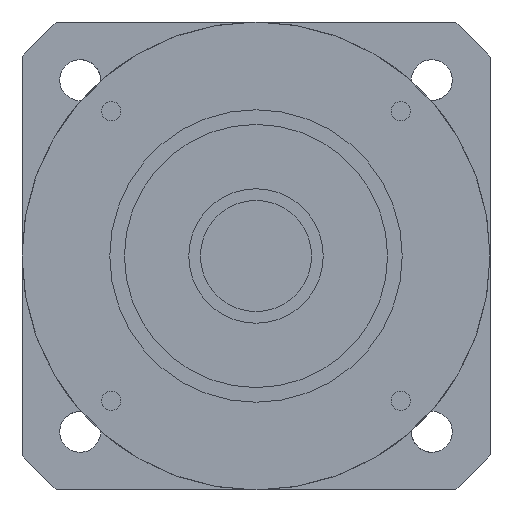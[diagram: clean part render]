
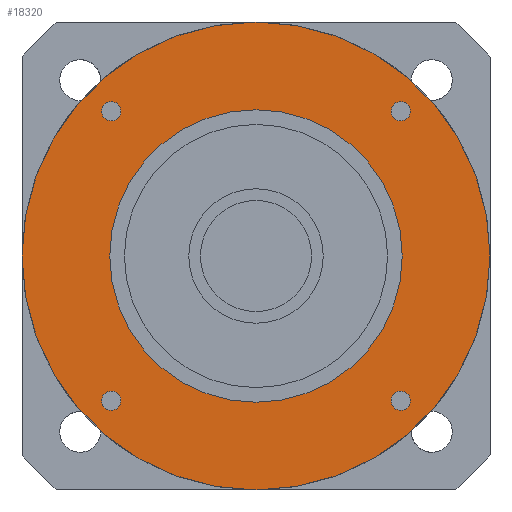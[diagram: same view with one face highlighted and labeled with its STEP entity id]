
A CAD part, left-side view. The second image highlights one B-rep face of the part: STEP entity #18320.
In plain terms, the highlighted planar face has unit normal (-1, 0, 0) as drawn and (0, 0, -1) by its records, which use the part's own axes.
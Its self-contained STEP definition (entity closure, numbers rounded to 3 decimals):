
#13830=CARTESIAN_POINT('',(-26.399,24.749,-42.));
#13840=VERTEX_POINT('',#13830);
#14020=CARTESIAN_POINT('',(-23.099,24.749,-42.));
#14030=VERTEX_POINT('',#14020);
#14060=CARTESIAN_POINT('',(-24.749,24.749,-42.));
#14070=DIRECTION('',(0.,0.,-1.));
#14080=DIRECTION('',(1.,0.,0.));
#14090=AXIS2_PLACEMENT_3D('',#14060,#14070,#14080);
#14100=CIRCLE('',#14090,1.65);
#14110=EDGE_CURVE('',#13840,#14030,#14100,.T.);
#14250=CARTESIAN_POINT('',(23.099,24.749,-42.));
#14260=VERTEX_POINT('',#14250);
#14440=CARTESIAN_POINT('',(26.399,24.749,-42.));
#14450=VERTEX_POINT('',#14440);
#14480=CARTESIAN_POINT('',(24.749,24.749,-42.));
#14490=DIRECTION('',(0.,0.,-1.));
#14500=DIRECTION('',(1.,0.,0.));
#14510=AXIS2_PLACEMENT_3D('',#14480,#14490,#14500);
#14520=CIRCLE('',#14510,1.65);
#14530=EDGE_CURVE('',#14260,#14450,#14520,.T.);
#17440=CARTESIAN_POINT('',(-40.,0.,-42.));
#17450=VERTEX_POINT('',#17440);
#17480=CARTESIAN_POINT('',(0.,0.,-42.));
#17490=DIRECTION('',(0.,0.,-1.));
#17500=DIRECTION('',(1.,0.,0.));
#17510=AXIS2_PLACEMENT_3D('',#17480,#17490,#17500);
#17520=CIRCLE('',#17510,40.);
#17530=CARTESIAN_POINT('',(40.,0.,-42.));
#17540=VERTEX_POINT('',#17530);
#17550=EDGE_CURVE('',#17450,#17540,#17520,.T.);
#17670=CARTESIAN_POINT('',(0.,0.,-42.));
#17680=DIRECTION('',(0.,0.,1.));
#17690=DIRECTION('',(1.,0.,0.));
#17700=AXIS2_PLACEMENT_3D('',#17670,#17680,#17690);
#17710=PLANE('',#17700);
#17720=CARTESIAN_POINT('',(24.749,-24.749,-42.));
#17730=DIRECTION('',(0.,0.,-1.));
#17740=DIRECTION('',(1.,0.,0.));
#17750=AXIS2_PLACEMENT_3D('',#17720,#17730,#17740);
#17760=CIRCLE('',#17750,1.65);
#17770=CARTESIAN_POINT('',(26.399,-24.749,-42.));
#17780=VERTEX_POINT('',#17770);
#17790=CARTESIAN_POINT('',(23.099,-24.749,-42.));
#17800=VERTEX_POINT('',#17790);
#17810=EDGE_CURVE('',#17780,#17800,#17760,.T.);
#17820=ORIENTED_EDGE('',*,*,#17810,.F.);
#17830=EDGE_CURVE('',#17800,#17780,#17760,.T.);
#17840=ORIENTED_EDGE('',*,*,#17830,.F.);
#17850=EDGE_LOOP('',(#17840,#17820));
#17860=FACE_BOUND('',#17850,.T.);
#17870=CARTESIAN_POINT('',(0.,0.,-42.));
#17880=DIRECTION('',(0.,0.,1.));
#17890=DIRECTION('',(-1.,0.,0.));
#17900=AXIS2_PLACEMENT_3D('',#17870,#17880,#17890);
#17910=CIRCLE('',#17900,25.);
#17920=CARTESIAN_POINT('',(-25.,0.,-42.));
#17930=VERTEX_POINT('',#17920);
#17940=CARTESIAN_POINT('',(25.,0.,-42.));
#17950=VERTEX_POINT('',#17940);
#17960=EDGE_CURVE('',#17930,#17950,#17910,.T.);
#17970=ORIENTED_EDGE('',*,*,#17960,.T.);
#17980=EDGE_CURVE('',#17950,#17930,#17910,.T.);
#17990=ORIENTED_EDGE('',*,*,#17980,.T.);
#18000=EDGE_LOOP('',(#17990,#17970));
#18010=FACE_BOUND('',#18000,.T.);
#18020=CARTESIAN_POINT('',(-24.749,-24.749,-42.));
#18030=DIRECTION('',(0.,0.,-1.));
#18040=DIRECTION('',(1.,0.,0.));
#18050=AXIS2_PLACEMENT_3D('',#18020,#18030,#18040);
#18060=CIRCLE('',#18050,1.65);
#18070=CARTESIAN_POINT('',(-23.099,-24.749,-42.));
#18080=VERTEX_POINT('',#18070);
#18090=CARTESIAN_POINT('',(-26.399,-24.749,-42.));
#18100=VERTEX_POINT('',#18090);
#18110=EDGE_CURVE('',#18080,#18100,#18060,.T.);
#18120=ORIENTED_EDGE('',*,*,#18110,.F.);
#18130=EDGE_CURVE('',#18100,#18080,#18060,.T.);
#18140=ORIENTED_EDGE('',*,*,#18130,.F.);
#18150=EDGE_LOOP('',(#18140,#18120));
#18160=FACE_BOUND('',#18150,.T.);
#18170=EDGE_CURVE('',#14030,#13840,#14100,.T.);
#18180=ORIENTED_EDGE('',*,*,#18170,.F.);
#18190=ORIENTED_EDGE('',*,*,#14110,.F.);
#18200=EDGE_LOOP('',(#18190,#18180));
#18210=FACE_BOUND('',#18200,.T.);
#18220=EDGE_CURVE('',#14450,#14260,#14520,.T.);
#18230=ORIENTED_EDGE('',*,*,#18220,.F.);
#18240=ORIENTED_EDGE('',*,*,#14530,.F.);
#18250=EDGE_LOOP('',(#18240,#18230));
#18260=FACE_BOUND('',#18250,.T.);
#18270=EDGE_CURVE('',#17540,#17450,#17520,.T.);
#18280=ORIENTED_EDGE('',*,*,#18270,.T.);
#18290=ORIENTED_EDGE('',*,*,#17550,.T.);
#18300=EDGE_LOOP('',(#18290,#18280));
#18310=FACE_OUTER_BOUND('',#18300,.T.);
#18320=ADVANCED_FACE('',(#17860,#18010,#18160,#18210,#18260,#18310),
#17710,.F.);
